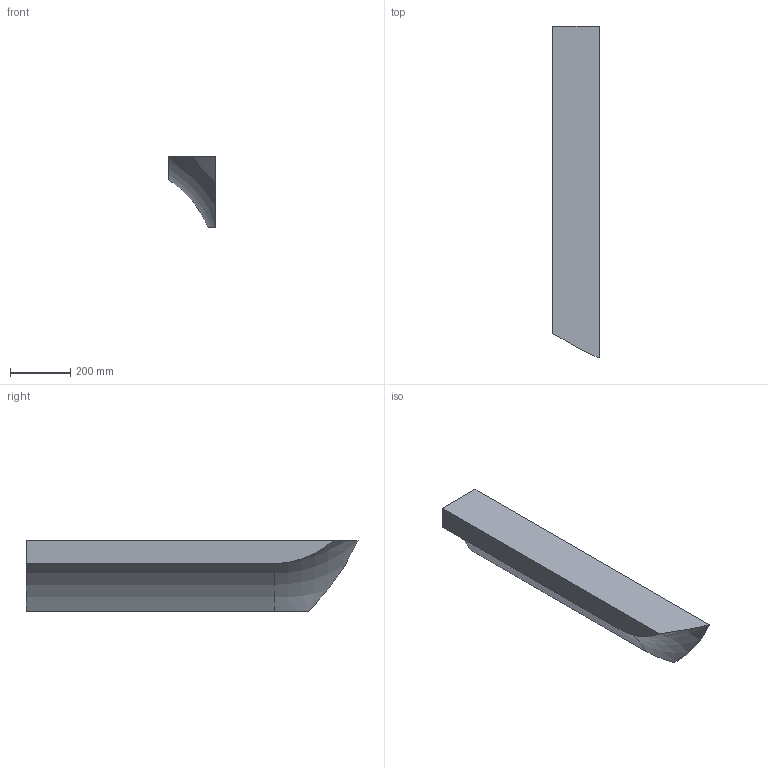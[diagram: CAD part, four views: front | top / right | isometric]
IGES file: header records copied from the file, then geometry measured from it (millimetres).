
Start section:  PTC IGES file: bpb_filler_bar_r_af0.igs
Global section: file name: bpb_filler_bar_r_af0.igs; native system: Pro/ENGINEER by Parametric Technology Corporation; preprocessor: 1999260; author: oshatz; organization: Unknown; date: 000922.101840; units: millimetre
Bounding box: 153.71 x 1101.74 x 235 mm (x, y, z)
Surface area: 754295.4 mm2 (no closed solid volume)
Topology: 0 solids, 0 shells, 7 faces, 30 edges, 30 vertices
Faces by surface type: bspline 5, revolution 2
